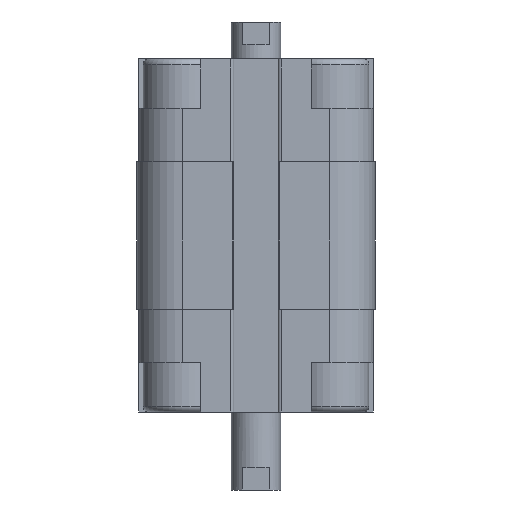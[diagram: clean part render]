
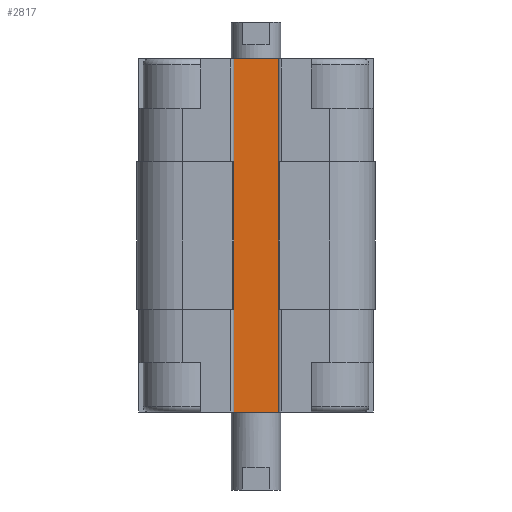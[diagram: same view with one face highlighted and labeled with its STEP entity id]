
A CAD part, front view. The second image highlights one B-rep face of the part: STEP entity #2817.
In plain terms, the highlighted planar face has unit normal (0, -1, 0).
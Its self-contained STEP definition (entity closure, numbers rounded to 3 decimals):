
#22 = CARTESIAN_POINT ( 'NONE',  ( -3., -9.5, -12.5 ) ) ;
#98 = DIRECTION ( 'NONE',  ( 1., 0., 0. ) ) ;
#309 = VECTOR ( 'NONE', #3991, 1000. ) ;
#450 = VECTOR ( 'NONE', #768, 1000. ) ;
#753 = LINE ( 'NONE', #6241, #309 ) ;
#768 = DIRECTION ( 'NONE',  ( 0., 0., 1. ) ) ;
#774 = ORIENTED_EDGE ( 'NONE', *, *, #14847, .T. ) ;
#1026 = DIRECTION ( 'NONE',  ( 0., 0., 1. ) ) ;
#1119 = LINE ( 'NONE', #22, #15774 ) ;
#1275 = VERTEX_POINT ( 'NONE', #17072 ) ;
#1441 = LINE ( 'NONE', #12420, #9236 ) ;
#1505 = VERTEX_POINT ( 'NONE', #5390 ) ;
#1564 = EDGE_CURVE ( 'NONE', #1275, #13447, #10795, .T. ) ;
#1585 = EDGE_CURVE ( 'NONE', #11218, #5175, #7171, .T. ) ;
#2040 = DIRECTION ( 'NONE',  ( 0., -1., 0. ) ) ;
#2063 = DIRECTION ( 'NONE',  ( 0., 0., 1. ) ) ;
#2179 = LINE ( 'NONE', #10459, #4643 ) ;
#2451 = EDGE_CURVE ( 'NONE', #17449, #8707, #15910, .T. ) ;
#2596 = CARTESIAN_POINT ( 'NONE',  ( 3., -9.5, -12.5 ) ) ;
#2817 = ADVANCED_FACE ( 'NONE', ( #17142 ), #17322, .T. ) ;
#3418 = ORIENTED_EDGE ( 'NONE', *, *, #11378, .F. ) ;
#3460 = LINE ( 'NONE', #7605, #450 ) ;
#3991 = DIRECTION ( 'NONE',  ( 1., 0., 0. ) ) ;
#4131 = VECTOR ( 'NONE', #8994, 1000. ) ;
#4297 = ORIENTED_EDGE ( 'NONE', *, *, #1585, .F. ) ;
#4643 = VECTOR ( 'NONE', #6328, 1000. ) ;
#4688 = ORIENTED_EDGE ( 'NONE', *, *, #12043, .T. ) ;
#4795 = EDGE_CURVE ( 'NONE', #5175, #5871, #2179, .T. ) ;
#4922 = DIRECTION ( 'NONE',  ( 1., 0., 0. ) ) ;
#5175 = VERTEX_POINT ( 'NONE', #15205 ) ;
#5261 = AXIS2_PLACEMENT_3D ( 'NONE', #12932, #2040, #10225 ) ;
#5390 = CARTESIAN_POINT ( 'NONE',  ( -3., -9.5, -43. ) ) ;
#5678 = EDGE_CURVE ( 'NONE', #17231, #12862, #3460, .T. ) ;
#5738 = ORIENTED_EDGE ( 'NONE', *, *, #13636, .T. ) ;
#5871 = VERTEX_POINT ( 'NONE', #12719 ) ;
#5993 = VERTEX_POINT ( 'NONE', #8743 ) ;
#6177 = LINE ( 'NONE', #8694, #16245 ) ;
#6241 = CARTESIAN_POINT ( 'NONE',  ( -3., -9.5, 0. ) ) ;
#6328 = DIRECTION ( 'NONE',  ( 1., 0., 0. ) ) ;
#6816 = ORIENTED_EDGE ( 'NONE', *, *, #6882, .F. ) ;
#6882 = EDGE_CURVE ( 'NONE', #1505, #5993, #7564, .T. ) ;
#7082 = VECTOR ( 'NONE', #10627, 1000. ) ;
#7171 = LINE ( 'NONE', #16614, #10908 ) ;
#7247 = VECTOR ( 'NONE', #2063, 1000. ) ;
#7564 = LINE ( 'NONE', #8726, #4131 ) ;
#7605 = CARTESIAN_POINT ( 'NONE',  ( 3.2, -9.5, -30.5 ) ) ;
#7617 = EDGE_CURVE ( 'NONE', #1275, #12862, #13560, .T. ) ;
#7758 = ORIENTED_EDGE ( 'NONE', *, *, #4795, .F. ) ;
#8084 = DIRECTION ( 'NONE',  ( 0., 0., 1. ) ) ;
#8694 = CARTESIAN_POINT ( 'NONE',  ( -3.2, -9.5, -30.5 ) ) ;
#8707 = VERTEX_POINT ( 'NONE', #12062 ) ;
#8726 = CARTESIAN_POINT ( 'NONE',  ( -3., -9.5, -43. ) ) ;
#8743 = CARTESIAN_POINT ( 'NONE',  ( -3., -9.5, -30.5 ) ) ;
#8994 = DIRECTION ( 'NONE',  ( 0., 0., 1. ) ) ;
#9236 = VECTOR ( 'NONE', #98, 1000. ) ;
#9270 = CARTESIAN_POINT ( 'NONE',  ( -3.2, -9.5, -30.5 ) ) ;
#9355 = LINE ( 'NONE', #9270, #7082 ) ;
#9638 = CARTESIAN_POINT ( 'NONE',  ( 3., -9.5, -43. ) ) ;
#9747 = CARTESIAN_POINT ( 'NONE',  ( -3.2, -9.5, -30.5 ) ) ;
#10152 = EDGE_CURVE ( 'NONE', #5871, #12506, #1119, .T. ) ;
#10225 = DIRECTION ( 'NONE',  ( -1., 0., 0. ) ) ;
#10459 = CARTESIAN_POINT ( 'NONE',  ( -3.2, -9.5, -12.5 ) ) ;
#10627 = DIRECTION ( 'NONE',  ( 1., 0., 0. ) ) ;
#10795 = LINE ( 'NONE', #2596, #11779 ) ;
#10908 = VECTOR ( 'NONE', #15529, 1000. ) ;
#11218 = VERTEX_POINT ( 'NONE', #9747 ) ;
#11326 = ORIENTED_EDGE ( 'NONE', *, *, #10152, .F. ) ;
#11378 = EDGE_CURVE ( 'NONE', #12506, #13447, #753, .T. ) ;
#11779 = VECTOR ( 'NONE', #8084, 1000. ) ;
#11978 = CARTESIAN_POINT ( 'NONE',  ( 3., -9.5, -43. ) ) ;
#12043 = EDGE_CURVE ( 'NONE', #1505, #17449, #1441, .T. ) ;
#12062 = CARTESIAN_POINT ( 'NONE',  ( 3., -9.5, -30.5 ) ) ;
#12420 = CARTESIAN_POINT ( 'NONE',  ( -3., -9.5, -43. ) ) ;
#12447 = VECTOR ( 'NONE', #14915, 1000. ) ;
#12506 = VERTEX_POINT ( 'NONE', #14700 ) ;
#12549 = ORIENTED_EDGE ( 'NONE', *, *, #5678, .T. ) ;
#12719 = CARTESIAN_POINT ( 'NONE',  ( -3., -9.5, -12.5 ) ) ;
#12725 = CARTESIAN_POINT ( 'NONE',  ( 3.2, -9.5, -30.5 ) ) ;
#12862 = VERTEX_POINT ( 'NONE', #14317 ) ;
#12932 = CARTESIAN_POINT ( 'NONE',  ( -3., -9.5, -12.5 ) ) ;
#12959 = EDGE_LOOP ( 'NONE', ( #3418, #11326, #7758, #4297, #5738, #6816, #4688, #17235, #774, #12549, #16988, #14648 ) ) ;
#13447 = VERTEX_POINT ( 'NONE', #15355 ) ;
#13560 = LINE ( 'NONE', #15167, #12447 ) ;
#13636 = EDGE_CURVE ( 'NONE', #11218, #5993, #6177, .T. ) ;
#14317 = CARTESIAN_POINT ( 'NONE',  ( 3.2, -9.5, -12.5 ) ) ;
#14648 = ORIENTED_EDGE ( 'NONE', *, *, #1564, .T. ) ;
#14700 = CARTESIAN_POINT ( 'NONE',  ( -3., -9.5, 0. ) ) ;
#14847 = EDGE_CURVE ( 'NONE', #8707, #17231, #9355, .T. ) ;
#14915 = DIRECTION ( 'NONE',  ( 1., 0., 0. ) ) ;
#15167 = CARTESIAN_POINT ( 'NONE',  ( 9., -9.5, -12.5 ) ) ;
#15205 = CARTESIAN_POINT ( 'NONE',  ( -3.2, -9.5, -12.5 ) ) ;
#15355 = CARTESIAN_POINT ( 'NONE',  ( 3., -9.5, 0. ) ) ;
#15529 = DIRECTION ( 'NONE',  ( 0., 0., 1. ) ) ;
#15774 = VECTOR ( 'NONE', #1026, 1000. ) ;
#15910 = LINE ( 'NONE', #11978, #7247 ) ;
#16245 = VECTOR ( 'NONE', #4922, 1000. ) ;
#16614 = CARTESIAN_POINT ( 'NONE',  ( -3.2, -9.5, -30.5 ) ) ;
#16988 = ORIENTED_EDGE ( 'NONE', *, *, #7617, .F. ) ;
#17072 = CARTESIAN_POINT ( 'NONE',  ( 3., -9.5, -12.5 ) ) ;
#17142 = FACE_OUTER_BOUND ( 'NONE', #12959, .T. ) ;
#17231 = VERTEX_POINT ( 'NONE', #12725 ) ;
#17235 = ORIENTED_EDGE ( 'NONE', *, *, #2451, .T. ) ;
#17322 = PLANE ( 'NONE',  #5261 ) ;
#17449 = VERTEX_POINT ( 'NONE', #9638 ) ;
